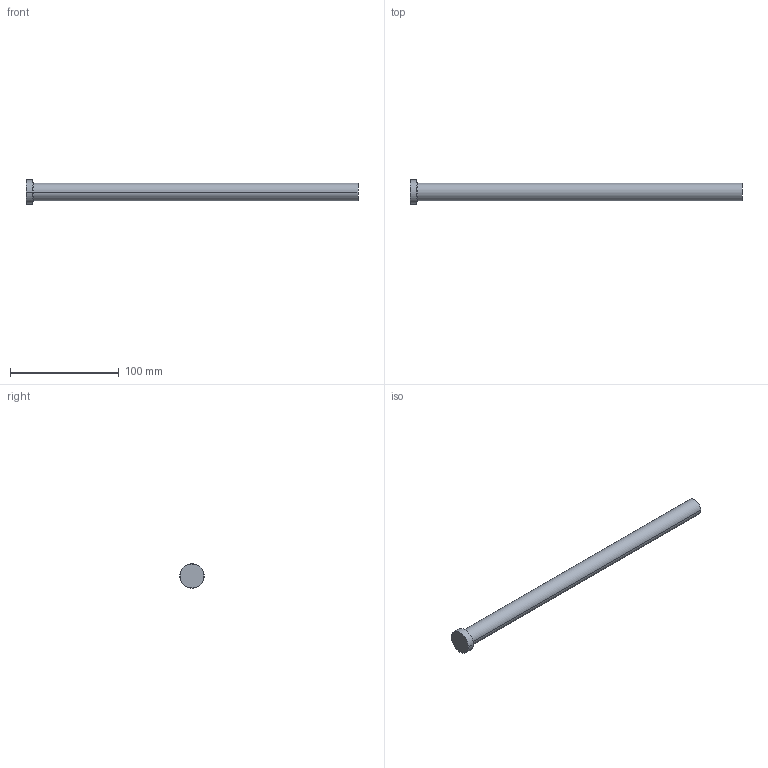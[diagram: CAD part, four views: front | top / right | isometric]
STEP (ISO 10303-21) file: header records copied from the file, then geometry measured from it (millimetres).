
FILE_DESCRIPTION (( 'STEP AP214' ), '1' );
FILE_NAME ('P37-12.STEP', '2020-03-12T12:06:48', ( '' ), ( '' ), 'SwSTEP 2.0', 'SolidWorks 2018', '' );
FILE_SCHEMA (( 'AUTOMOTIVE_DESIGN' ));
Length unit declared in the file: inch
Products named in the file (1): P37-12
Bounding box: 304.8 x 22.23 x 22.23 mm (x, y, z)
Volume: 61447.6 mm3; surface area: 16067.5 mm2
Topology: 1 solids, 1 shells, 13 faces, 24 edges, 14 vertices
Faces by surface type: cone 4, cylinder 4, plane 3, torus 2
Entity records: 366 total; most frequent: DIRECTION 68, CARTESIAN_POINT 52, ORIENTED_EDGE 48, AXIS2_PLACEMENT_3D 30, EDGE_CURVE 24, CIRCLE 16, VERTEX_POINT 14, EDGE_LOOP 14
